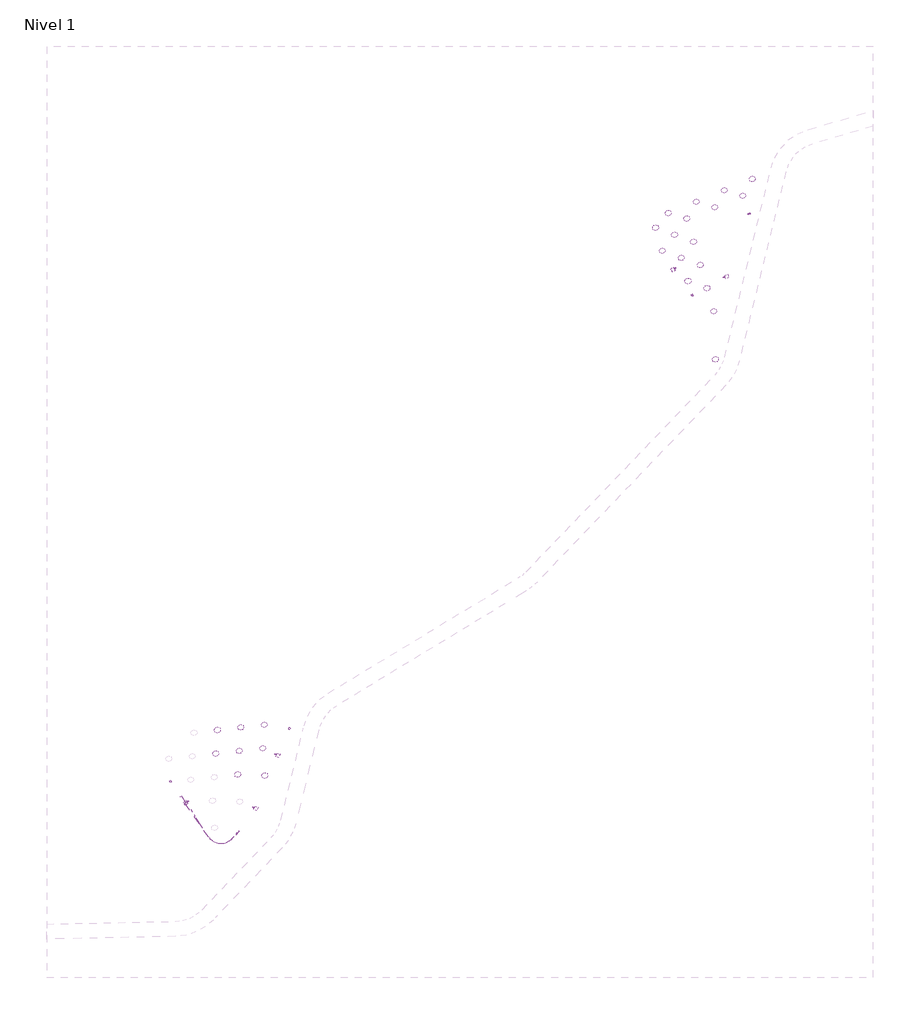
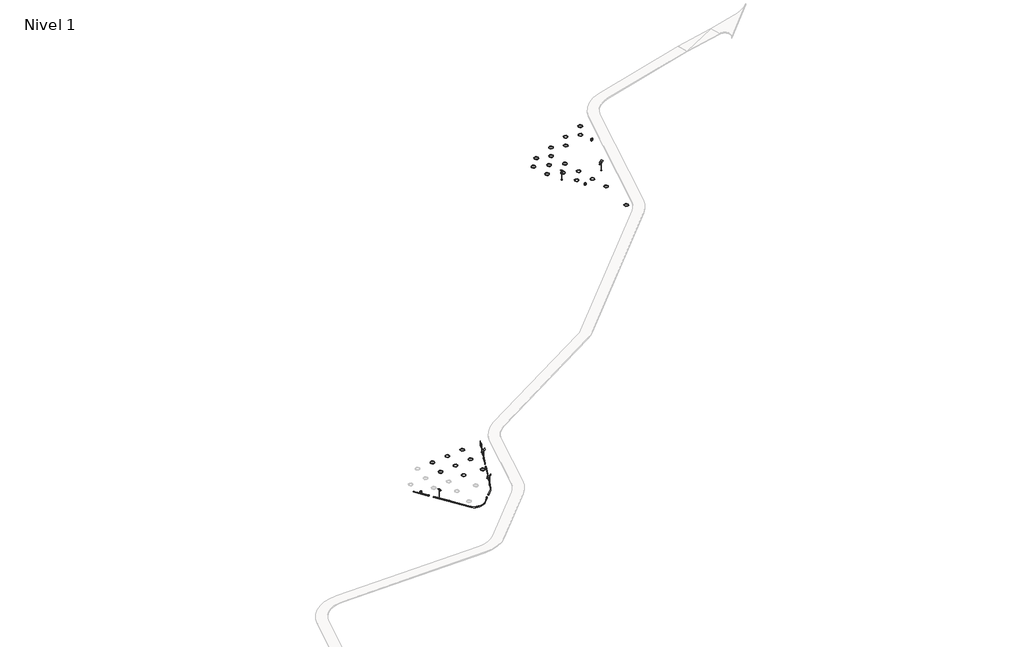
# One storey, part 2 of 2: 26 slabs, 5 light fixtures, 4 furniture elements.
"""IFC4 building model written with IfcOpenShell, lengths in millimetres."""

from ifc_helpers import new_model, si_unit, point, frame, frame_2d, origin, place, context, project, spatial, polyline, circle_curve, trimmed, segment, composite_curve, outline, extrude, transform, mapped, element, save
from components import furniture_01fcf808, poste_de_luz_eb11a457

model = new_model("IFC4")

# Units and contexts
model_context = context("Model", 3, world=origin())
ifc_project = project(units=[si_unit("LENGTHUNIT", "METRE", prefix="MILLI")], contexts=[model_context])

# Site, building, storey
site = spatial("IfcSite", under=ifc_project)
building = spatial("IfcBuilding", under=site)
storey = spatial("IfcBuildingStorey", under=building, Name="Nivel 1", Elevation=0.0)

# Furniture
placement = place(None, origin())
furniture_shape = furniture_01fcf808(model_context)
element("IfcFurniture", 1, ObjectType="Tacho : Tacho", at=placement, inside=storey, context=model_context, shape_type="MappedRepresentation", body=[
    mapped(furniture_shape, transform((438550.4593627, 232864.2116762, 5800.0), x_axis=(0.570930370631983, -0.8209984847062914, 0.0), y_axis=(0.8209984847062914, 0.570930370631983, 0.0), z_axis=(0.0, 0.0, 1.0))),
])
element("IfcFurniture", 2, ObjectType="Tacho : Tacho", at=placement, inside=storey, context=model_context, shape_type="MappedRepresentation", body=[
    mapped(furniture_shape, transform((477899.54418, 250597.1635641, 5800.0), x_axis=(-0.3852810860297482, -0.9227992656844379, 0.0), y_axis=(0.9227992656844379, -0.3852810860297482, 0.0), z_axis=(0.0, 0.0, 1.0))),
])
element("IfcFurniture", 3, ObjectType="Tacho : Tacho", at=placement, inside=storey, context=model_context, shape_type="MappedRepresentation", body=[
    mapped(furniture_shape, transform((630190.7295424, 421117.4061818, 5770.0), x_axis=(-0.926506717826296, -0.3762782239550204, 0.0), y_axis=(0.3762782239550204, -0.926506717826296, 0.0), z_axis=(0.0, 0.0, 1.0))),
])
element("IfcFurniture", 4, ObjectType="Tacho : Tacho", at=placement, inside=storey, context=model_context, shape_type="MappedRepresentation", body=[
    mapped(furniture_shape, transform((611626.9491105, 394119.9277029, 5880.0), x_axis=(-0.6077592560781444, 0.7941213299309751, 0.0), y_axis=(-0.7941213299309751, -0.6077592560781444, 0.0), z_axis=(0.0, 0.0, 1.0))),
])

# Light fixtures
poste_de_luz_shape = poste_de_luz_eb11a457(model_context)
element("IfcLightFixture", 5, ObjectType="Poste de Luz : Poste Señaletica A1 - Villa María", at=placement, inside=storey, context=model_context, shape_type="MappedRepresentation", body=[
    mapped(poste_de_luz_shape, transform((443667.4788417, 225856.2370393, 5495.2), x_axis=(-0.8209984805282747, -0.5709303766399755, 0.0), y_axis=(0.5709303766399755, -0.8209984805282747, 0.0), z_axis=(0.0, 0.0, 1.0))),
])
element("IfcLightFixture", 6, ObjectType="Poste de Luz : Poste Señaletica A1 - Villa María", at=placement, inside=storey, context=model_context, shape_type="MappedRepresentation", body=[
    mapped(poste_de_luz_shape, transform((467020.7516679, 224021.9123318, 5495.2), x_axis=(0.9227992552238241, -0.3852811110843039, 0.0), y_axis=(0.3852811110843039, 0.9227992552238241, 0.0), z_axis=(0.0, 0.0, 1.0))),
])
element("IfcLightFixture", 7, ObjectType="Poste de Luz : Poste Señaletica A1 - Villa María", at=placement, inside=storey, context=model_context, shape_type="MappedRepresentation", body=[
    mapped(poste_de_luz_shape, transform((474356.5096526, 241592.024739, 5495.2), x_axis=(0.9227992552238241, -0.3852811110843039, 0.0), y_axis=(0.3852811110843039, 0.9227992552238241, 0.0), z_axis=(0.0, 0.0, 1.0))),
])
element("IfcLightFixture", 8, ObjectType="Poste de Luz : Poste Señaletica A1 - Villa María", at=placement, inside=storey, context=model_context, shape_type="MappedRepresentation", body=[
    mapped(poste_de_luz_shape, transform((622905.9380832, 400162.0163039, 5495.2), x_axis=(0.960283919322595, 0.27902471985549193, 0.0), y_axis=(-0.27902471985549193, 0.960283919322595, 0.0), z_axis=(0.0, 0.0, 1.0))),
])
element("IfcLightFixture", 9, ObjectType="Poste de Luz : Poste Señaletica A1 - Villa María", at=placement, inside=storey, context=model_context, shape_type="MappedRepresentation", body=[
    mapped(poste_de_luz_shape, transform((605041.0707514, 402396.2089478, 5653.0049023), x_axis=(-0.7941213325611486, -0.6077592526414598, 0.0), y_axis=(0.6077592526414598, -0.7941213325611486, 0.0), z_axis=(0.0, 0.0, 1.0))),
])

# Slabs
element("IfcSlab", 10, ObjectType="Bordillo", at=placement, inside=storey, context=model_context, shape_type="SweptSolid", body=[
    extrude(outline(composite_curve([segment(polyline([(436775.2651274, 235679.6718596), (437871.4519232, 234103.3540728), (438761.8180306, 233260.8885138), (439150.0506893, 232702.6095434), (439629.9174687, 231574.6787402), (440200.8478363, 230753.680254), (441120.8916363, 229883.1336592), (440785.6508, 229650.003905), (437061.3991116, 235005.481823)]), True, "CONTINUOUS"), segment(trimmed(circle_curve(frame_2d((448558.1035916, 240282.6293583)), 12650.0000003), [point((437061.3991116, 235005.481823))], [point((436775.2651274, 235679.6718596))], False, "CARTESIAN"), True, "CONTINUOUS")], self_intersect=False)), frame((0.0, 0.0, 5400.0), z_axis=(0.0, 0.0, 1.0), x_axis=(1.0, 0.0, 0.0)), (0.0, 0.0, 1.0), 400.0),
    extrude(outline(polyline([(469086.2342953, 229488.1159575), (469779.2705698, 230499.1550657), (471705.6809544, 235113.1632614), (471937.3181113, 236316.8428902), (471952.7293642, 236353.7548443), (472321.8493651, 236199.6421236), (469439.9418874, 229297.0917503), (469070.8230371, 229451.2039905), (469086.2342953, 229488.1159575)])), frame((0.0, 0.0, 5400.0), z_axis=(0.0, 0.0, 1.0), x_axis=(1.0, 0.0, 0.0)), (0.0, 0.0, 1.0), 400.0),
    extrude(outline(polyline([(472746.4091182, 238254.7210348), (473439.4458409, 239265.7599549), (473809.316752, 240151.6498091), (474040.9542229, 241355.3292124), (474302.9453801, 241982.83271), (474995.9825818, 242993.8715125), (475365.853415, 243879.7614171), (475597.4915267, 245083.4406473), (475612.9027366, 245120.3524985), (475982.0218402, 244966.2403158), (473100.1171705, 238063.6966681), (472730.9978135, 238217.8089566), (472746.4091182, 238254.7210348)])), frame((0.0, 0.0, 5400.0), z_axis=(0.0, 0.0, 1.0), x_axis=(1.0, 0.0, 0.0)), (0.0, 0.0, 1.0), 400.0),
    extrude(outline(composite_curve([segment(polyline([(441938.9301494, 227991.5869646), (442267.3293397, 228219.9589748), (445373.1937895, 223753.7226907), (446572.147575, 222029.6258891), (447052.0172448, 220901.6913052), (451474.3030208, 214542.4396212)]), True, "CONTINUOUS"), segment(trimmed(circle_curve(frame_2d((455456.1456713, 217311.4519187)), 4849.9999997), [point((451474.3030208, 214542.4396212))], [point((458956.7999584, 213954.6797251))], True, "CARTESIAN"), True, "CONTINUOUS"), segment(polyline([(458956.7999584, 213954.6797251), (460553.4432077, 215619.7602588), (461203.5384767, 216658.9308069), (461231.2231944, 216687.8021808), (461519.9369524, 216410.9549872), (459065.0676166, 213850.8620269)]), True, "CONTINUOUS"), segment(trimmed(circle_curve(frame_2d((455456.1456712, 217311.451918)), 5000.0000003), [point((459065.0676166, 213850.8620269))], [point((451351.1532474, 214456.8000647))], False, "CARTESIAN"), True, "CONTINUOUS"), segment(polyline([(451351.1532474, 214456.8000647), (441938.9301494, 227991.5869646)]), True, "CONTINUOUS")], self_intersect=False)), frame((0.0, 0.0, 5400.0), z_axis=(0.0, 0.0, 1.0), x_axis=(1.0, 0.0, 0.0)), (0.0, 0.0, 1.0), 400.0),
    extrude(outline(composite_curve([segment(polyline([(462918.0152683, 217868.9594531), (462629.3015142, 218145.8066429), (462656.9862279, 218174.6780128), (463667.9776724, 218867.7937246), (465264.6169473, 220532.8701131)]), True, "CONTINUOUS"), segment(trimmed(circle_curve(frame_2d((461763.9626629, 223889.6423048)), 4849.9999965), [point((465264.6169473, 220532.8701131))], [point((466239.5393803, 222021.0297146))], True, "CARTESIAN"), True, "CONTINUOUS"), segment(polyline([(466239.5393803, 222021.0297146), (466473.5587669, 222581.5374001), (466705.1962383, 223785.2168052), (466967.1873955, 224412.7203028), (467660.2245971, 225423.7591053), (468045.5056832, 226346.5583703), (468277.1432884, 227550.2378129), (468292.5545413, 227587.149767), (468661.6740936, 227433.0372336), (466377.958988, 221963.2368751)]), True, "CONTINUOUS"), segment(trimmed(circle_curve(frame_2d((461763.9626584, 223889.6423058)), 5000.0000013), [point((466377.958988, 221963.2368751))], [point((465372.8846045, 220429.0524139))], False, "CARTESIAN"), True, "CONTINUOUS"), segment(polyline([(465372.8846045, 220429.0524139), (462918.0152683, 217868.9594531)]), True, "CONTINUOUS")], self_intersect=False)), frame((0.0, 0.0, 5400.0), z_axis=(0.0, 0.0, 1.0), x_axis=(1.0, 0.0, 0.0)), (0.0, 0.0, 1.0), 400.0),
    extrude(outline(composite_curve([segment(polyline([(476760.2896339, 246830.2948324), (476391.1712324, 246984.4067221), (476406.5825335, 247021.3187919), (477099.6169332, 248032.3548342), (477484.8981883, 248955.1545053), (477716.5356454, 250158.833916), (477978.5268026, 250786.3374135), (478671.5640043, 251797.3762161), (479356.6526818, 253438.2545964)]), True, "CONTINUOUS"), segment(trimmed(circle_curve(frame_2d((500069.244961, 247136.5864966)), 21649.9999946), [point((479356.6526818, 253438.2545964))], [point((479044.0075486, 252300.1019191))], True, "CARTESIAN"), True, "CONTINUOUS"), segment(polyline([(479044.0075486, 252300.1019191), (476760.2896339, 246830.2948324)]), True, "CONTINUOUS")], self_intersect=False)), frame((0.0, 0.0, 5400.0), z_axis=(0.0, 0.0, 1.0), x_axis=(1.0, 0.0, 0.0)), (0.0, 0.0, 1.0), 400.0),
])
element("IfcSlab", 11, ObjectType="Alcorque", at=placement, inside=storey, context=model_context, shape_type="SweptSolid", body=[
    extrude(outline(composite_curve([segment(trimmed(circle_curve(frame_2d((454249.9264821, 250007.2792095)), 1000.0), [point((453249.9264821, 250007.2792095))], [point((455249.9264821, 250007.2792095))], False, "CARTESIAN"), True, "CONTINUOUS"), segment(trimmed(circle_curve(frame_2d((454249.9264821, 250007.2792095)), 1000.0), [point((455249.9264821, 250007.2792095))], [point((453249.9264821, 250007.2792095))], False, "CARTESIAN"), True, "CONTINUOUS")], self_intersect=False), holes=[composite_curve([segment(trimmed(circle_curve(frame_2d((454249.9264821, 250007.2792095)), 900.0), [point((453349.9264821, 250007.2792095))], [point((455149.9264821, 250007.2792095))], True, "CARTESIAN"), True, "CONTINUOUS"), segment(trimmed(circle_curve(frame_2d((454249.9264821, 250007.2792095)), 900.0), [point((455149.9264821, 250007.2792095))], [point((453349.9264821, 250007.2792095))], True, "CARTESIAN"), True, "CONTINUOUS")], self_intersect=False)]), frame((0.0, 0.0, 5698.2295327), z_axis=(0.0, 0.0, 1.0), x_axis=(1.0, 0.0, 0.0)), (0.0, 0.0, 1.0), 150.0),
])
element("IfcSlab", 12, ObjectType="Alcorque", at=placement, inside=storey, context=model_context, shape_type="SweptSolid", body=[
    extrude(outline(composite_curve([segment(trimmed(circle_curve(frame_2d((462011.5562946, 250877.3956669)), 1000.0), [point((461011.5562946, 250877.3956669))], [point((463011.5562946, 250877.3956669))], False, "CARTESIAN"), True, "CONTINUOUS"), segment(trimmed(circle_curve(frame_2d((462011.5562946, 250877.3956669)), 1000.0), [point((463011.5562946, 250877.3956669))], [point((461011.5562946, 250877.3956669))], False, "CARTESIAN"), True, "CONTINUOUS")], self_intersect=False), holes=[composite_curve([segment(trimmed(circle_curve(frame_2d((462011.5562946, 250877.3956669)), 900.0), [point((461111.5562946, 250877.3956669))], [point((462911.5562946, 250877.3956669))], True, "CARTESIAN"), True, "CONTINUOUS"), segment(trimmed(circle_curve(frame_2d((462011.5562946, 250877.3956669)), 900.0), [point((462911.5562946, 250877.3956669))], [point((461111.5562946, 250877.3956669))], True, "CARTESIAN"), True, "CONTINUOUS")], self_intersect=False)]), frame((0.0, 0.0, 5695.7295327), z_axis=(0.0, 0.0, 1.0), x_axis=(1.0, 0.0, 0.0)), (0.0, 0.0, 1.0), 150.0),
])
element("IfcSlab", 13, ObjectType="Alcorque", at=placement, inside=storey, context=model_context, shape_type="SweptSolid", body=[
    extrude(outline(composite_curve([segment(trimmed(circle_curve(frame_2d((469773.186107, 251747.5121242)), 1000.0), [point((468773.186107, 251747.5121242))], [point((470773.186107, 251747.5121242))], False, "CARTESIAN"), True, "CONTINUOUS"), segment(trimmed(circle_curve(frame_2d((469773.186107, 251747.5121242)), 1000.0), [point((470773.186107, 251747.5121242))], [point((468773.186107, 251747.5121242))], False, "CARTESIAN"), True, "CONTINUOUS")], self_intersect=False), holes=[composite_curve([segment(trimmed(circle_curve(frame_2d((469773.186107, 251747.5121242)), 900.0), [point((468873.186107, 251747.5121242))], [point((470673.186107, 251747.5121242))], True, "CARTESIAN"), True, "CONTINUOUS"), segment(trimmed(circle_curve(frame_2d((469773.186107, 251747.5121242)), 900.0), [point((470673.186107, 251747.5121242))], [point((468873.186107, 251747.5121242))], True, "CARTESIAN"), True, "CONTINUOUS")], self_intersect=False)]), frame((0.0, 0.0, 5683.1295327), z_axis=(0.0, 0.0, 1.0), x_axis=(1.0, 0.0, 0.0)), (0.0, 0.0, 1.0), 150.0),
])
element("IfcSlab", 14, ObjectType="Alcorque", at=placement, inside=storey, context=model_context, shape_type="SweptSolid", body=[
    extrude(outline(composite_curve([segment(trimmed(circle_curve(frame_2d((453706.1405738, 242215.9829826)), 1000.0), [point((452706.1405738, 242215.9829826))], [point((454706.1405738, 242215.9829826))], False, "CARTESIAN"), True, "CONTINUOUS"), segment(trimmed(circle_curve(frame_2d((453706.1405738, 242215.9829826)), 1000.0), [point((454706.1405738, 242215.9829826))], [point((452706.1405738, 242215.9829826))], False, "CARTESIAN"), True, "CONTINUOUS")], self_intersect=False), holes=[composite_curve([segment(trimmed(circle_curve(frame_2d((453706.1405738, 242215.9829826)), 900.0), [point((452806.1405738, 242215.9829826))], [point((454606.1405738, 242215.9829826))], True, "CARTESIAN"), True, "CONTINUOUS"), segment(trimmed(circle_curve(frame_2d((453706.1405738, 242215.9829826)), 900.0), [point((454606.1405738, 242215.9829826))], [point((452806.1405738, 242215.9829826))], True, "CARTESIAN"), True, "CONTINUOUS")], self_intersect=False)]), frame((0.0, 0.0, 5700.0), z_axis=(0.0, 0.0, 1.0), x_axis=(1.0, 0.0, 0.0)), (0.0, 0.0, 1.0), 150.0),
])
element("IfcSlab", 15, ObjectType="Alcorque", at=placement, inside=storey, context=model_context, shape_type="SweptSolid", body=[
    extrude(outline(composite_curve([segment(trimmed(circle_curve(frame_2d((461467.7703862, 243086.09944)), 1000.0), [point((460467.7703862, 243086.09944))], [point((462467.7703862, 243086.09944))], False, "CARTESIAN"), True, "CONTINUOUS"), segment(trimmed(circle_curve(frame_2d((461467.7703862, 243086.09944)), 1000.0), [point((462467.7703862, 243086.09944))], [point((460467.7703862, 243086.09944))], False, "CARTESIAN"), True, "CONTINUOUS")], self_intersect=False), holes=[composite_curve([segment(trimmed(circle_curve(frame_2d((461467.7703862, 243086.09944)), 900.0), [point((460567.7703862, 243086.09944))], [point((462367.7703862, 243086.09944))], True, "CARTESIAN"), True, "CONTINUOUS"), segment(trimmed(circle_curve(frame_2d((461467.7703862, 243086.09944)), 900.0), [point((462367.7703862, 243086.09944))], [point((460567.7703862, 243086.09944))], True, "CARTESIAN"), True, "CONTINUOUS")], self_intersect=False)]), frame((0.0, 0.0, 5700.0), z_axis=(0.0, 0.0, 1.0), x_axis=(1.0, 0.0, 0.0)), (0.0, 0.0, 1.0), 150.0),
])
element("IfcSlab", 16, ObjectType="Alcorque", at=placement, inside=storey, context=model_context, shape_type="SweptSolid", body=[
    extrude(outline(composite_curve([segment(trimmed(circle_curve(frame_2d((469229.4001979, 243956.2158973)), 1000.0), [point((468229.4001979, 243956.2158973))], [point((470229.4001979, 243956.2158973))], False, "CARTESIAN"), True, "CONTINUOUS"), segment(trimmed(circle_curve(frame_2d((469229.4001979, 243956.2158973)), 1000.0), [point((470229.4001979, 243956.2158973))], [point((468229.4001979, 243956.2158973))], False, "CARTESIAN"), True, "CONTINUOUS")], self_intersect=False), holes=[composite_curve([segment(trimmed(circle_curve(frame_2d((469229.4001979, 243956.2158973)), 900.0), [point((468329.4001979, 243956.2158973))], [point((470129.4001979, 243956.2158973))], True, "CARTESIAN"), True, "CONTINUOUS"), segment(trimmed(circle_curve(frame_2d((469229.4001979, 243956.2158973)), 900.0), [point((470129.4001979, 243956.2158973))], [point((468329.4001979, 243956.2158973))], True, "CARTESIAN"), True, "CONTINUOUS")], self_intersect=False)]), frame((0.0, 0.0, 5702.284601), z_axis=(0.0, 0.0, 1.0), x_axis=(1.0, 0.0, 0.0)), (0.0, 0.0, 1.0), 150.0),
])
element("IfcSlab", 17, ObjectType="Alcorque", at=placement, inside=storey, context=model_context, shape_type="SweptSolid", body=[
    extrude(outline(composite_curve([segment(trimmed(circle_curve(frame_2d((460923.9844771, 235294.8032131)), 1000.0), [point((459923.9844771, 235294.8032131))], [point((461923.9844771, 235294.8032131))], False, "CARTESIAN"), True, "CONTINUOUS"), segment(trimmed(circle_curve(frame_2d((460923.9844771, 235294.8032131)), 1000.0), [point((461923.9844771, 235294.8032131))], [point((459923.9844771, 235294.8032131))], False, "CARTESIAN"), True, "CONTINUOUS")], self_intersect=False), holes=[composite_curve([segment(trimmed(circle_curve(frame_2d((460923.9844771, 235294.8032131)), 900.0), [point((460023.9844771, 235294.8032131))], [point((461823.9844771, 235294.8032131))], True, "CARTESIAN"), True, "CONTINUOUS"), segment(trimmed(circle_curve(frame_2d((460923.9844771, 235294.8032131)), 900.0), [point((461823.9844771, 235294.8032131))], [point((460023.9844771, 235294.8032131))], True, "CARTESIAN"), True, "CONTINUOUS")], self_intersect=False)]), frame((0.0, 0.0, 5700.0), z_axis=(0.0, 0.0, 1.0), x_axis=(1.0, 0.0, 0.0)), (0.0, 0.0, 1.0), 150.0),
])
element("IfcSlab", 18, ObjectType="Alcorque", at=placement, inside=storey, context=model_context, shape_type="SweptSolid", body=[
    extrude(outline(composite_curve([segment(trimmed(circle_curve(frame_2d((469968.4653062, 234934.1175311)), 1000.0), [point((468968.4653062, 234934.1175311))], [point((470968.4653062, 234934.1175311))], False, "CARTESIAN"), True, "CONTINUOUS"), segment(trimmed(circle_curve(frame_2d((469968.4653062, 234934.1175311)), 1000.0), [point((470968.4653062, 234934.1175311))], [point((468968.4653062, 234934.1175311))], False, "CARTESIAN"), True, "CONTINUOUS")], self_intersect=False), holes=[composite_curve([segment(trimmed(circle_curve(frame_2d((469968.4653062, 234934.1175311)), 900.0), [point((469068.4653062, 234934.1175311))], [point((470868.4653062, 234934.1175311))], True, "CARTESIAN"), True, "CONTINUOUS"), segment(trimmed(circle_curve(frame_2d((469968.4653062, 234934.1175311)), 900.0), [point((470868.4653062, 234934.1175311))], [point((469068.4653062, 234934.1175311))], True, "CARTESIAN"), True, "CONTINUOUS")], self_intersect=False)]), frame((0.0, 0.0, 5700.0), z_axis=(0.0, 0.0, 1.0), x_axis=(1.0, 0.0, 0.0)), (0.0, 0.0, 1.0), 150.0),
])
element("IfcSlab", 19, ObjectType="Alcorque", at=placement, inside=storey, context=model_context, shape_type="SweptSolid", body=[
    extrude(outline(composite_curve([segment(trimmed(circle_curve(frame_2d((618572.4710631, 388639.5881676)), 1000.0), [point((617572.4710631, 388639.5881676))], [point((619572.4710631, 388639.5881676))], False, "CARTESIAN"), True, "CONTINUOUS"), segment(trimmed(circle_curve(frame_2d((618572.4710631, 388639.5881676)), 1000.0), [point((619572.4710631, 388639.5881676))], [point((617572.4710631, 388639.5881676))], False, "CARTESIAN"), True, "CONTINUOUS")], self_intersect=False), holes=[composite_curve([segment(trimmed(circle_curve(frame_2d((618572.4710631, 388639.5881676)), 900.0), [point((617672.4710631, 388639.5881676))], [point((619472.4710631, 388639.5881676))], True, "CARTESIAN"), True, "CONTINUOUS"), segment(trimmed(circle_curve(frame_2d((618572.4710631, 388639.5881676)), 900.0), [point((619472.4710631, 388639.5881676))], [point((617672.4710631, 388639.5881676))], True, "CARTESIAN"), True, "CONTINUOUS")], self_intersect=False)]), frame((0.0, 0.0, 5719.0347909), z_axis=(0.0, 0.0, 1.0), x_axis=(1.0, 0.0, 0.0)), (0.0, 0.0, 1.0), 150.0),
])
element("IfcSlab", 20, ObjectType="Alcorque", at=placement, inside=storey, context=model_context, shape_type="SweptSolid", body=[
    extrude(outline(composite_curve([segment(trimmed(circle_curve(frame_2d((619149.4254658, 372718.4483872)), 1000.0), [point((618149.4254658, 372718.4483872))], [point((620149.4254658, 372718.4483872))], False, "CARTESIAN"), True, "CONTINUOUS"), segment(trimmed(circle_curve(frame_2d((619149.4254658, 372718.4483872)), 1000.0), [point((620149.4254658, 372718.4483872))], [point((618149.4254658, 372718.4483872))], False, "CARTESIAN"), True, "CONTINUOUS")], self_intersect=False), holes=[composite_curve([segment(trimmed(circle_curve(frame_2d((619149.4254658, 372718.4483872)), 900.0), [point((618249.4254658, 372718.4483872))], [point((620049.4254658, 372718.4483872))], True, "CARTESIAN"), True, "CONTINUOUS"), segment(trimmed(circle_curve(frame_2d((619149.4254658, 372718.4483872)), 900.0), [point((620049.4254658, 372718.4483872))], [point((618249.4254658, 372718.4483872))], True, "CARTESIAN"), True, "CONTINUOUS")], self_intersect=False)]), frame((0.0, 0.0, 5669.0347909), z_axis=(0.0, 0.0, 1.0), x_axis=(1.0, 0.0, 0.0)), (0.0, 0.0, 1.0), 150.0),
])
element("IfcSlab", 21, ObjectType="Alcorque", at=placement, inside=storey, context=model_context, shape_type="SweptSolid", body=[
    extrude(outline(composite_curve([segment(trimmed(circle_curve(frame_2d((616341.3642512, 396318.1076923)), 1000.0), [point((615341.3642512, 396318.1076923))], [point((617341.3642512, 396318.1076923))], False, "CARTESIAN"), True, "CONTINUOUS"), segment(trimmed(circle_curve(frame_2d((616341.3642512, 396318.1076923)), 1000.0), [point((617341.3642512, 396318.1076923))], [point((615341.3642512, 396318.1076923))], False, "CARTESIAN"), True, "CONTINUOUS")], self_intersect=False), holes=[composite_curve([segment(trimmed(circle_curve(frame_2d((616341.3642512, 396318.1076923)), 900.0), [point((615441.3642512, 396318.1076923))], [point((617241.3642512, 396318.1076923))], True, "CARTESIAN"), True, "CONTINUOUS"), segment(trimmed(circle_curve(frame_2d((616341.3642512, 396318.1076923)), 900.0), [point((617241.3642512, 396318.1076923))], [point((615441.3642512, 396318.1076923))], True, "CARTESIAN"), True, "CONTINUOUS")], self_intersect=False)]), frame((0.0, 0.0, 5753.4879742), z_axis=(0.0, 0.0, 1.0), x_axis=(1.0, 0.0, 0.0)), (0.0, 0.0, 1.0), 150.0),
])
element("IfcSlab", 22, ObjectType="Alcorque", at=placement, inside=storey, context=model_context, shape_type="SweptSolid", body=[
    extrude(outline(composite_curve([segment(trimmed(circle_curve(frame_2d((610054.362295, 398656.7614095)), 1000.0), [point((609054.362295, 398656.7614095))], [point((611054.362295, 398656.7614095))], False, "CARTESIAN"), True, "CONTINUOUS"), segment(trimmed(circle_curve(frame_2d((610054.362295, 398656.7614095)), 1000.0), [point((611054.362295, 398656.7614095))], [point((609054.362295, 398656.7614095))], False, "CARTESIAN"), True, "CONTINUOUS")], self_intersect=False), holes=[composite_curve([segment(trimmed(circle_curve(frame_2d((610054.362295, 398656.7614095)), 900.0), [point((609154.362295, 398656.7614095))], [point((610954.362295, 398656.7614095))], True, "CARTESIAN"), True, "CONTINUOUS"), segment(trimmed(circle_curve(frame_2d((610054.362295, 398656.7614095)), 900.0), [point((610954.362295, 398656.7614095))], [point((609154.362295, 398656.7614095))], True, "CARTESIAN"), True, "CONTINUOUS")], self_intersect=False)]), frame((0.0, 0.0, 5808.8866785), z_axis=(0.0, 0.0, 1.0), x_axis=(1.0, 0.0, 0.0)), (0.0, 0.0, 1.0), 150.0),
])
element("IfcSlab", 23, ObjectType="Alcorque", at=placement, inside=storey, context=model_context, shape_type="SweptSolid", body=[
    extrude(outline(composite_curve([segment(trimmed(circle_curve(frame_2d((614110.2574393, 403996.6272169)), 1000.0), [point((613110.2574393, 403996.6272169))], [point((615110.2574393, 403996.6272169))], False, "CARTESIAN"), True, "CONTINUOUS"), segment(trimmed(circle_curve(frame_2d((614110.2574393, 403996.6272169)), 1000.0), [point((615110.2574393, 403996.6272169))], [point((613110.2574393, 403996.6272169))], False, "CARTESIAN"), True, "CONTINUOUS")], self_intersect=False), holes=[composite_curve([segment(trimmed(circle_curve(frame_2d((614110.2574393, 403996.6272169)), 900.0), [point((613210.2574393, 403996.6272169))], [point((615010.2574393, 403996.6272169))], True, "CARTESIAN"), True, "CONTINUOUS"), segment(trimmed(circle_curve(frame_2d((614110.2574393, 403996.6272169)), 900.0), [point((615010.2574393, 403996.6272169))], [point((613210.2574393, 403996.6272169))], True, "CARTESIAN"), True, "CONTINUOUS")], self_intersect=False)]), frame((0.0, 0.0, 5787.2903418), z_axis=(0.0, 0.0, 1.0), x_axis=(1.0, 0.0, 0.0)), (0.0, 0.0, 1.0), 150.0),
])
element("IfcSlab", 24, ObjectType="Alcorque", at=placement, inside=storey, context=model_context, shape_type="SweptSolid", body=[
    extrude(outline(composite_curve([segment(trimmed(circle_curve(frame_2d((607823.2554831, 406335.2809341)), 1000.0), [point((606823.2554831, 406335.2809341))], [point((608823.2554831, 406335.2809341))], False, "CARTESIAN"), True, "CONTINUOUS"), segment(trimmed(circle_curve(frame_2d((607823.2554831, 406335.2809341)), 1000.0), [point((608823.2554831, 406335.2809341))], [point((606823.2554831, 406335.2809341))], False, "CARTESIAN"), True, "CONTINUOUS")], self_intersect=False), holes=[composite_curve([segment(trimmed(circle_curve(frame_2d((607823.2554831, 406335.2809341)), 900.0), [point((606923.2554831, 406335.2809341))], [point((608723.2554831, 406335.2809341))], True, "CARTESIAN"), True, "CONTINUOUS"), segment(trimmed(circle_curve(frame_2d((607823.2554831, 406335.2809341)), 900.0), [point((608723.2554831, 406335.2809341))], [point((606923.2554831, 406335.2809341))], True, "CARTESIAN"), True, "CONTINUOUS")], self_intersect=False)]), frame((0.0, 0.0, 5842.2903418), z_axis=(0.0, 0.0, 1.0), x_axis=(1.0, 0.0, 0.0)), (0.0, 0.0, 1.0), 150.0),
])
element("IfcSlab", 25, ObjectType="Alcorque", at=placement, inside=storey, context=model_context, shape_type="SweptSolid", body=[
    extrude(outline(composite_curve([segment(trimmed(circle_curve(frame_2d((601536.253527, 408673.9346513)), 1000.0), [point((600536.253527, 408673.9346513))], [point((602536.253527, 408673.9346513))], False, "CARTESIAN"), True, "CONTINUOUS"), segment(trimmed(circle_curve(frame_2d((601536.253527, 408673.9346513)), 1000.0), [point((602536.253527, 408673.9346513))], [point((600536.253527, 408673.9346513))], False, "CARTESIAN"), True, "CONTINUOUS")], self_intersect=False), holes=[composite_curve([segment(trimmed(circle_curve(frame_2d((601536.253527, 408673.9346513)), 900.0), [point((600636.253527, 408673.9346513))], [point((602436.253527, 408673.9346513))], True, "CARTESIAN"), True, "CONTINUOUS"), segment(trimmed(circle_curve(frame_2d((601536.253527, 408673.9346513)), 900.0), [point((602436.253527, 408673.9346513))], [point((600636.253527, 408673.9346513))], True, "CARTESIAN"), True, "CONTINUOUS")], self_intersect=False)]), frame((0.0, 0.0, 5888.1602359), z_axis=(0.0, 0.0, 1.0), x_axis=(1.0, 0.0, 0.0)), (0.0, 0.0, 1.0), 150.0),
])
element("IfcSlab", 26, ObjectType="Alcorque", at=placement, inside=storey, context=model_context, shape_type="SweptSolid", body=[
    extrude(outline(composite_curve([segment(trimmed(circle_curve(frame_2d((611879.1506256, 411675.1467508)), 1000.0), [point((610879.1506256, 411675.1467508))], [point((612879.1506256, 411675.1467508))], False, "CARTESIAN"), True, "CONTINUOUS"), segment(trimmed(circle_curve(frame_2d((611879.1506256, 411675.1467508)), 1000.0), [point((612879.1506256, 411675.1467508))], [point((610879.1506256, 411675.1467508))], False, "CARTESIAN"), True, "CONTINUOUS")], self_intersect=False), holes=[composite_curve([segment(trimmed(circle_curve(frame_2d((611879.1506256, 411675.1467508)), 900.0), [point((610979.1506256, 411675.1467508))], [point((612779.1506256, 411675.1467508))], True, "CARTESIAN"), True, "CONTINUOUS"), segment(trimmed(circle_curve(frame_2d((611879.1506256, 411675.1467508)), 900.0), [point((612779.1506256, 411675.1467508))], [point((610979.1506256, 411675.1467508))], True, "CARTESIAN"), True, "CONTINUOUS")], self_intersect=False)]), frame((0.0, 0.0, 5807.2903418), z_axis=(0.0, 0.0, 1.0), x_axis=(1.0, 0.0, 0.0)), (0.0, 0.0, 1.0), 150.0),
])
element("IfcSlab", 27, ObjectType="Alcorque", at=placement, inside=storey, context=model_context, shape_type="SweptSolid", body=[
    extrude(outline(composite_curve([segment(trimmed(circle_curve(frame_2d((605592.1486695, 414013.800468)), 1000.0), [point((604592.1486695, 414013.800468))], [point((606592.1486695, 414013.800468))], False, "CARTESIAN"), True, "CONTINUOUS"), segment(trimmed(circle_curve(frame_2d((605592.1486695, 414013.800468)), 1000.0), [point((606592.1486695, 414013.800468))], [point((604592.1486695, 414013.800468))], False, "CARTESIAN"), True, "CONTINUOUS")], self_intersect=False), holes=[composite_curve([segment(trimmed(circle_curve(frame_2d((605592.1486695, 414013.800468)), 900.0), [point((604692.1486695, 414013.800468))], [point((606492.1486695, 414013.800468))], True, "CARTESIAN"), True, "CONTINUOUS"), segment(trimmed(circle_curve(frame_2d((605592.1486695, 414013.800468)), 900.0), [point((606492.1486695, 414013.800468))], [point((604692.1486695, 414013.800468))], True, "CARTESIAN"), True, "CONTINUOUS")], self_intersect=False)]), frame((0.0, 0.0, 5857.2903418), z_axis=(0.0, 0.0, 1.0), x_axis=(1.0, 0.0, 0.0)), (0.0, 0.0, 1.0), 150.0),
])
element("IfcSlab", 28, ObjectType="Alcorque", at=placement, inside=storey, context=model_context, shape_type="SweptSolid", body=[
    extrude(outline(composite_curve([segment(trimmed(circle_curve(frame_2d((599305.1467133, 416352.4541852)), 1000.0), [point((598305.1467133, 416352.4541852))], [point((600305.1467133, 416352.4541852))], False, "CARTESIAN"), True, "CONTINUOUS"), segment(trimmed(circle_curve(frame_2d((599305.1467133, 416352.4541852)), 1000.0), [point((600305.1467133, 416352.4541852))], [point((598305.1467133, 416352.4541852))], False, "CARTESIAN"), True, "CONTINUOUS")], self_intersect=False), holes=[composite_curve([segment(trimmed(circle_curve(frame_2d((599305.1467133, 416352.4541852)), 900.0), [point((598405.1467133, 416352.4541852))], [point((600205.1467133, 416352.4541852))], True, "CARTESIAN"), True, "CONTINUOUS"), segment(trimmed(circle_curve(frame_2d((599305.1467133, 416352.4541852)), 900.0), [point((600205.1467133, 416352.4541852))], [point((598405.1467133, 416352.4541852))], True, "CARTESIAN"), True, "CONTINUOUS")], self_intersect=False)]), frame((0.0, 0.0, 5885.3100139), z_axis=(0.0, 0.0, 1.0), x_axis=(1.0, 0.0, 0.0)), (0.0, 0.0, 1.0), 150.0),
])
element("IfcSlab", 29, ObjectType="Alcorque", at=placement, inside=storey, context=model_context, shape_type="SweptSolid", body=[
    extrude(outline(composite_curve([segment(trimmed(circle_curve(frame_2d((603509.3071244, 421182.0540835)), 1000.0), [point((602509.3071244, 421182.0540835))], [point((604509.3071244, 421182.0540835))], False, "CARTESIAN"), True, "CONTINUOUS"), segment(trimmed(circle_curve(frame_2d((603509.3071244, 421182.0540835)), 1000.0), [point((604509.3071244, 421182.0540835))], [point((602509.3071244, 421182.0540835))], False, "CARTESIAN"), True, "CONTINUOUS")], self_intersect=False), holes=[composite_curve([segment(trimmed(circle_curve(frame_2d((603509.3071244, 421182.0540835)), 900.0), [point((602609.3071244, 421182.0540835))], [point((604409.3071244, 421182.0540835))], True, "CARTESIAN"), True, "CONTINUOUS"), segment(trimmed(circle_curve(frame_2d((603509.3071244, 421182.0540835)), 900.0), [point((604409.3071244, 421182.0540835))], [point((602609.3071244, 421182.0540835))], True, "CARTESIAN"), True, "CONTINUOUS")], self_intersect=False)]), frame((0.0, 0.0, 5823.1517962), z_axis=(0.0, 0.0, 1.0), x_axis=(1.0, 0.0, 0.0)), (0.0, 0.0, 1.0), 150.0),
])
element("IfcSlab", 30, ObjectType="Alcorque", at=placement, inside=storey, context=model_context, shape_type="SweptSolid", body=[
    extrude(outline(composite_curve([segment(trimmed(circle_curve(frame_2d((609646.9536046, 419357.4183115)), 1000.0), [point((608646.9536046, 419357.4183115))], [point((610646.9536046, 419357.4183115))], False, "CARTESIAN"), True, "CONTINUOUS"), segment(trimmed(circle_curve(frame_2d((609646.9536046, 419357.4183115)), 1000.0), [point((610646.9536046, 419357.4183115))], [point((608646.9536046, 419357.4183115))], False, "CARTESIAN"), True, "CONTINUOUS")], self_intersect=False), holes=[composite_curve([segment(trimmed(circle_curve(frame_2d((609646.9536046, 419357.4183115)), 900.0), [point((608746.9536046, 419357.4183115))], [point((610546.9536046, 419357.4183115))], True, "CARTESIAN"), True, "CONTINUOUS"), segment(trimmed(circle_curve(frame_2d((609646.9536046, 419357.4183115)), 900.0), [point((610546.9536046, 419357.4183115))], [point((608746.9536046, 419357.4183115))], True, "CARTESIAN"), True, "CONTINUOUS")], self_intersect=False)]), frame((0.0, 0.0, 5800.3100139), z_axis=(0.0, 0.0, 1.0), x_axis=(1.0, 0.0, 0.0)), (0.0, 0.0, 1.0), 150.0),
])
element("IfcSlab", 31, ObjectType="Alcorque", at=placement, inside=storey, context=model_context, shape_type="SweptSolid", body=[
    extrude(outline(composite_curve([segment(trimmed(circle_curve(frame_2d((612774.3743148, 424944.8362922)), 1000.0), [point((611774.3743148, 424944.8362922))], [point((613774.3743148, 424944.8362922))], False, "CARTESIAN"), True, "CONTINUOUS"), segment(trimmed(circle_curve(frame_2d((612774.3743148, 424944.8362922)), 1000.0), [point((613774.3743148, 424944.8362922))], [point((611774.3743148, 424944.8362922))], False, "CARTESIAN"), True, "CONTINUOUS")], self_intersect=False), holes=[composite_curve([segment(trimmed(circle_curve(frame_2d((612774.3743148, 424944.8362922)), 900.0), [point((611874.3743148, 424944.8362922))], [point((613674.3743148, 424944.8362922))], True, "CARTESIAN"), True, "CONTINUOUS"), segment(trimmed(circle_curve(frame_2d((612774.3743148, 424944.8362922)), 900.0), [point((613674.3743148, 424944.8362922))], [point((611874.3743148, 424944.8362922))], True, "CARTESIAN"), True, "CONTINUOUS")], self_intersect=False)]), frame((0.0, 0.0, 5774.5321451), z_axis=(0.0, 0.0, 1.0), x_axis=(1.0, 0.0, 0.0)), (0.0, 0.0, 1.0), 150.0),
])
element("IfcSlab", 32, ObjectType="Alcorque", at=placement, inside=storey, context=model_context, shape_type="SweptSolid", body=[
    extrude(outline(composite_curve([segment(trimmed(circle_curve(frame_2d((618912.020795, 423120.2005201)), 1000.0), [point((617912.020795, 423120.2005201))], [point((619912.020795, 423120.2005201))], False, "CARTESIAN"), True, "CONTINUOUS"), segment(trimmed(circle_curve(frame_2d((618912.020795, 423120.2005201)), 1000.0), [point((619912.020795, 423120.2005201))], [point((617912.020795, 423120.2005201))], False, "CARTESIAN"), True, "CONTINUOUS")], self_intersect=False), holes=[composite_curve([segment(trimmed(circle_curve(frame_2d((618912.020795, 423120.2005201)), 900.0), [point((618012.020795, 423120.2005201))], [point((619812.020795, 423120.2005201))], True, "CARTESIAN"), True, "CONTINUOUS"), segment(trimmed(circle_curve(frame_2d((618912.020795, 423120.2005201)), 900.0), [point((619812.020795, 423120.2005201))], [point((618012.020795, 423120.2005201))], True, "CARTESIAN"), True, "CONTINUOUS")], self_intersect=False)]), frame((0.0, 0.0, 5735.3100139), z_axis=(0.0, 0.0, 1.0), x_axis=(1.0, 0.0, 0.0)), (0.0, 0.0, 1.0), 150.0),
])
element("IfcSlab", 33, ObjectType="Alcorque", at=placement, inside=storey, context=model_context, shape_type="SweptSolid", body=[
    extrude(outline(composite_curve([segment(trimmed(circle_curve(frame_2d((622039.4415052, 428707.6185008)), 1000.0), [point((621039.4415052, 428707.6185008))], [point((623039.4415052, 428707.6185008))], False, "CARTESIAN"), True, "CONTINUOUS"), segment(trimmed(circle_curve(frame_2d((622039.4415052, 428707.6185008)), 1000.0), [point((623039.4415052, 428707.6185008))], [point((621039.4415052, 428707.6185008))], False, "CARTESIAN"), True, "CONTINUOUS")], self_intersect=False), holes=[composite_curve([segment(trimmed(circle_curve(frame_2d((622039.4415052, 428707.6185008)), 900.0), [point((621139.4415052, 428707.6185008))], [point((622939.4415052, 428707.6185008))], True, "CARTESIAN"), True, "CONTINUOUS"), segment(trimmed(circle_curve(frame_2d((622039.4415052, 428707.6185008)), 900.0), [point((622939.4415052, 428707.6185008))], [point((621139.4415052, 428707.6185008))], True, "CARTESIAN"), True, "CONTINUOUS")], self_intersect=False)]), frame((0.0, 0.0, 5717.9830053), z_axis=(0.0, 0.0, 1.0), x_axis=(1.0, 0.0, 0.0)), (0.0, 0.0, 1.0), 150.0),
])
element("IfcSlab", 34, ObjectType="Alcorque", at=placement, inside=storey, context=model_context, shape_type="SweptSolid", body=[
    extrude(outline(composite_curve([segment(trimmed(circle_curve(frame_2d((628177.0879854, 426882.9827287)), 1000.0), [point((627177.0879854, 426882.9827287))], [point((629177.0879854, 426882.9827287))], False, "CARTESIAN"), True, "CONTINUOUS"), segment(trimmed(circle_curve(frame_2d((628177.0879854, 426882.9827287)), 1000.0), [point((629177.0879854, 426882.9827287))], [point((627177.0879854, 426882.9827287))], False, "CARTESIAN"), True, "CONTINUOUS")], self_intersect=False), holes=[composite_curve([segment(trimmed(circle_curve(frame_2d((628177.0879854, 426882.9827287)), 900.0), [point((627277.0879854, 426882.9827287))], [point((629077.0879854, 426882.9827287))], True, "CARTESIAN"), True, "CONTINUOUS"), segment(trimmed(circle_curve(frame_2d((628177.0879854, 426882.9827287)), 900.0), [point((629077.0879854, 426882.9827287))], [point((627277.0879854, 426882.9827287))], True, "CARTESIAN"), True, "CONTINUOUS")], self_intersect=False)]), frame((0.0, 0.0, 5683.2830053), z_axis=(0.0, 0.0, 1.0), x_axis=(1.0, 0.0, 0.0)), (0.0, 0.0, 1.0), 150.0),
])
element("IfcSlab", 35, ObjectType="Alcorque", at=placement, inside=storey, context=model_context, shape_type="SweptSolid", body=[
    extrude(outline(composite_curve([segment(trimmed(circle_curve(frame_2d((631304.5086955, 432470.4007094)), 1000.0), [point((630304.5086955, 432470.4007094))], [point((632304.5086955, 432470.4007094))], False, "CARTESIAN"), True, "CONTINUOUS"), segment(trimmed(circle_curve(frame_2d((631304.5086955, 432470.4007094)), 1000.0), [point((632304.5086955, 432470.4007094))], [point((630304.5086955, 432470.4007094))], False, "CARTESIAN"), True, "CONTINUOUS")], self_intersect=False), holes=[composite_curve([segment(trimmed(circle_curve(frame_2d((631304.5086955, 432470.4007094)), 900.0), [point((630404.5086955, 432470.4007094))], [point((632204.5086955, 432470.4007094))], True, "CARTESIAN"), True, "CONTINUOUS"), segment(trimmed(circle_curve(frame_2d((631304.5086955, 432470.4007094)), 900.0), [point((632204.5086955, 432470.4007094))], [point((630404.5086955, 432470.4007094))], True, "CARTESIAN"), True, "CONTINUOUS")], self_intersect=False)]), frame((0.0, 0.0, 5671.534625), z_axis=(0.0, 0.0, 1.0), x_axis=(1.0, 0.0, 0.0)), (0.0, 0.0, 1.0), 150.0),
])

save(model, "model.ifc")
